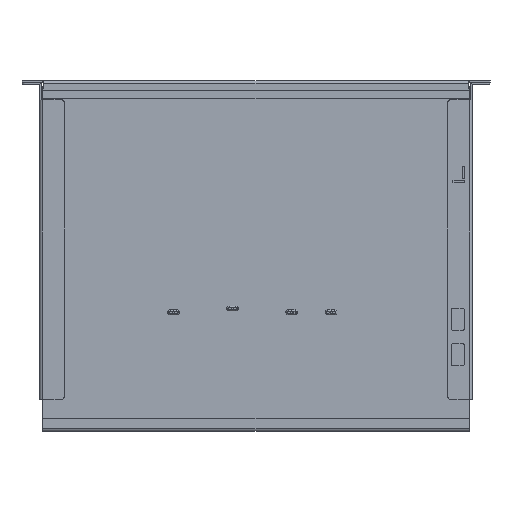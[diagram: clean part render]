
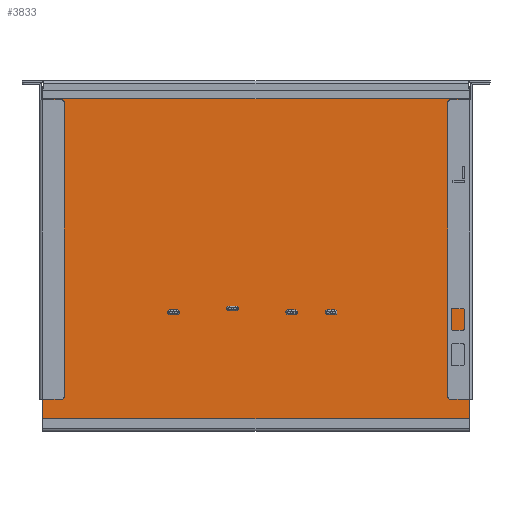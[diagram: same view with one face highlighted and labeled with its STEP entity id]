
A CAD part, front view. The second image highlights one B-rep face of the part: STEP entity #3833.
In plain terms, the highlighted planar face has unit normal (0, -1, 0) as drawn and (0, 0, -1) by its records, which use the part's own axes.
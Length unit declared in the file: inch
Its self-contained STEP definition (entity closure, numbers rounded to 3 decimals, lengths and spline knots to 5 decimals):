
#3523=DIRECTION('',(1.,0.,0.));
#3524=VECTOR('',#3523,17.312);
#3525=CARTESIAN_POINT('',(-8.656,13.796,-0.06));
#3526=LINE('',#3525,#3524);
#3527=DIRECTION('',(0.,-1.,0.));
#3528=VECTOR('',#3527,13.796);
#3529=CARTESIAN_POINT('',(-8.656,13.796,-0.06));
#3530=LINE('',#3529,#3528);
#3531=DIRECTION('',(0.,1.,0.));
#3532=VECTOR('',#3531,13.796);
#3533=CARTESIAN_POINT('',(8.656,0.,-0.06));
#3534=LINE('',#3533,#3532);
#3535=DIRECTION('',(-1.,0.,0.));
#3536=VECTOR('',#3535,17.312);
#3537=CARTESIAN_POINT('',(8.656,0.,-0.06));
#3538=LINE('',#3537,#3536);
#3635=CARTESIAN_POINT('',(-8.656,13.796,-0.06));
#3636=CARTESIAN_POINT('',(-8.656,0.,-0.06));
#3637=VERTEX_POINT('',#3635);
#3638=VERTEX_POINT('',#3636);
#3639=CARTESIAN_POINT('',(8.656,0.,-0.06));
#3640=CARTESIAN_POINT('',(8.656,13.796,-0.06));
#3641=VERTEX_POINT('',#3639);
#3642=VERTEX_POINT('',#3640);
#3821=CARTESIAN_POINT('',(0.,0.,-0.06));
#3822=DIRECTION('',(0.,0.,1.));
#3823=DIRECTION('',(1.,0.,0.));
#3824=AXIS2_PLACEMENT_3D('',#3821,#3822,#3823);
#3825=PLANE('',#3824);
#3826=ORIENTED_EDGE('',*,*,#3813,.F.);
#3827=ORIENTED_EDGE('',*,*,#3699,.T.);
#3829=ORIENTED_EDGE('',*,*,#3828,.F.);
#3830=ORIENTED_EDGE('',*,*,#3758,.T.);
#3831=EDGE_LOOP('',(#3826,#3827,#3829,#3830));
#3832=FACE_OUTER_BOUND('',#3831,.F.);
#3833=ADVANCED_FACE('',(#3832),#3825,.F.);
#3699=EDGE_CURVE('',#3637,#3638,#3530,.T.);
#3758=EDGE_CURVE('',#3641,#3642,#3534,.T.);
#3813=EDGE_CURVE('',#3637,#3642,#3526,.T.);
#3828=EDGE_CURVE('',#3641,#3638,#3538,.T.);
